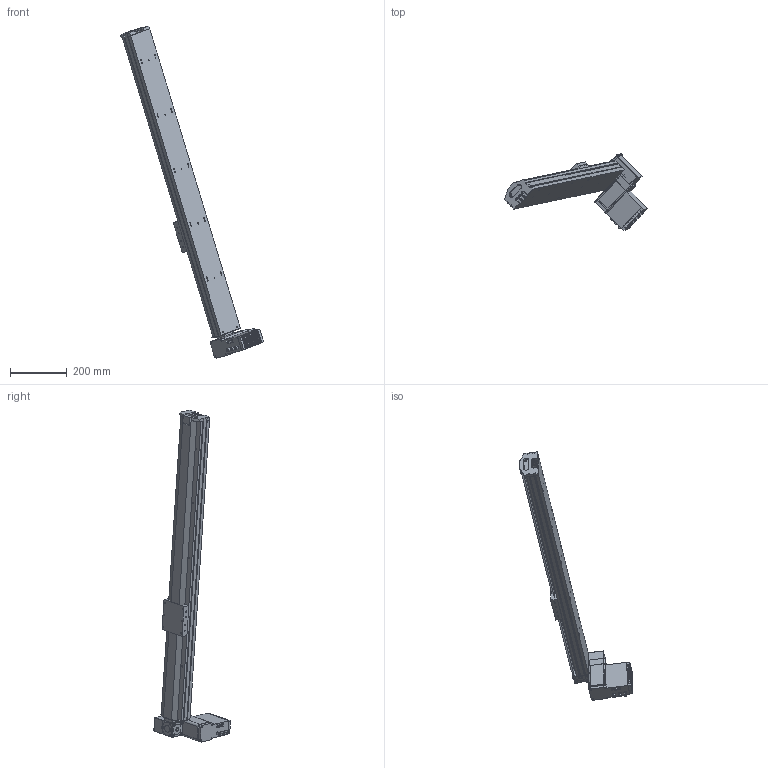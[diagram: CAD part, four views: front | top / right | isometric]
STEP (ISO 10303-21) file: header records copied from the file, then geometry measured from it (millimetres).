
FILE_DESCRIPTION (( 'STEP AP203' ), '1' );
FILE_NAME ('S10 CBH LU S1100.STEP', '2012-10-01T06:52:51', ( '' ), ( '' ), 'SwSTEP 2.0', 'SolidWorks 2010', '' );
FILE_SCHEMA (( 'CONFIG_CONTROL_DESIGN' ));
Length unit declared in the file: millimetre
Products named in the file (14): renvoi LH_Default; S10 CBH LU S1100; Vis M5 L16-2_Default_1; palette tbh; MOTEUR GMI 61 ; plaque de bout s10_Default; cache t皻e axe_Default; cache t皻e_Default; Plaque racord_Default; vis M5 L12_Default; Cvis M5 L30_Default; vis M5 L5_Default; embout; axe 1100
Assembly tree (24 placements, depth 2):
  S10 CBH LU S1100
    Cvis M5 L30_Default  x2
    cache t皻e_Default  x2
    Vis M5 L16-2_Default_1  x4
    vis M5 L12_Default  x4
    vis M5 L5_Default  x4
    plaque de bout s10_Default
    MOTEUR GMI 61 
    renvoi LH_Default
    embout
    axe 1100
    cache t皻e axe_Default
    palette tbh
    Plaque racord_Default
Bounding box: 502.68 x 270.38 x 1165.77 mm (x, y, z)
Volume: 6916552.1 mm3; surface area: 756433 mm2
Topology: 24 solids, 24 shells, 1057 faces, 2562 edges, 1590 vertices
Faces by surface type: plane 542, cylinder 374, cone 94, bspline 40, torus 7
Entity records: 26451 total; most frequent: CARTESIAN_POINT 4928, DIRECTION 4245, ORIENTED_EDGE 3956, EDGE_CURVE 1978, AXIS2_PLACEMENT_3D 1501, VERTEX_POINT 1278, VECTOR 1243, LINE 1243
